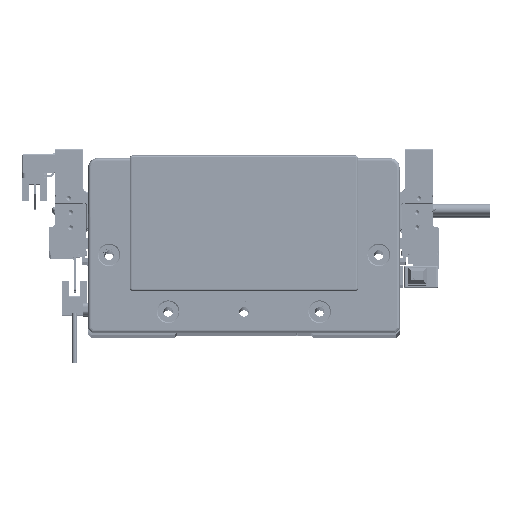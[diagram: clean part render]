
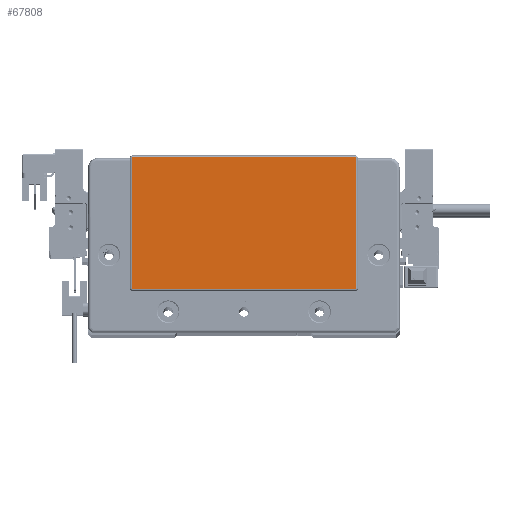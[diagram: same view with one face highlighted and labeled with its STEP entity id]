
A CAD part, top view. The second image highlights one B-rep face of the part: STEP entity #67808.
In plain terms, the highlighted planar face has unit normal (0, 0, 1) as drawn and (0, 0, -1) by its records, which use the part's own axes.
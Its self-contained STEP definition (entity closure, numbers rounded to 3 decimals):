
#1176 = EDGE_CURVE ( 'NONE', #98758, #46109, #48833, .T. ) ;
#1458 = EDGE_CURVE ( 'NONE', #38397, #8031, #82638, .T. ) ;
#5576 = LINE ( 'NONE', #40143, #28500 ) ;
#7612 = ORIENTED_EDGE ( 'NONE', *, *, #68377, .T. ) ;
#8031 = VERTEX_POINT ( 'NONE', #68889 ) ;
#8511 = DIRECTION ( 'NONE',  ( 1., 0., 0. ) ) ;
#9649 = DIRECTION ( 'NONE',  ( 0., -1., 0. ) ) ;
#11958 = VECTOR ( 'NONE', #8511, 1000. ) ;
#12671 = PLANE ( 'NONE',  #95581 ) ;
#13496 = EDGE_CURVE ( 'NONE', #8031, #98758, #62644, .T. ) ;
#14744 = DIRECTION ( 'NONE',  ( 0., 0., -1. ) ) ;
#15253 = EDGE_CURVE ( 'NONE', #46109, #92932, #5576, .T. ) ;
#15985 = VECTOR ( 'NONE', #9649, 1000. ) ;
#17512 = EDGE_CURVE ( 'NONE', #92932, #77175, #87704, .T. ) ;
#19151 = EDGE_CURVE ( 'NONE', #77175, #62313, #71152, .T. ) ;
#21098 = DIRECTION ( 'NONE',  ( 0., 0., -1. ) ) ;
#22337 = DIRECTION ( 'NONE',  ( -1., 0., 0. ) ) ;
#26860 = ORIENTED_EDGE ( 'NONE', *, *, #1176, .T. ) ;
#26902 = CARTESIAN_POINT ( 'NONE',  ( 58.75, 45.8, -2. ) ) ;
#28500 = VECTOR ( 'NONE', #89792, 1000. ) ;
#34588 = AXIS2_PLACEMENT_3D ( 'NONE', #45805, #72519, #22337 ) ;
#38334 = DIRECTION ( 'NONE',  ( 0., 0., -1. ) ) ;
#38397 = VERTEX_POINT ( 'NONE', #53584 ) ;
#39616 = AXIS2_PLACEMENT_3D ( 'NONE', #79637, #21098, #55124 ) ;
#40143 = CARTESIAN_POINT ( 'NONE',  ( -58.75, -23.8, -2. ) ) ;
#42500 = ORIENTED_EDGE ( 'NONE', *, *, #19151, .T. ) ;
#45805 = CARTESIAN_POINT ( 'NONE',  ( 58.75, 45.3, -2. ) ) ;
#46085 = CARTESIAN_POINT ( 'NONE',  ( -59.25, 45.3, -2. ) ) ;
#46109 = VERTEX_POINT ( 'NONE', #99466 ) ;
#46621 = DIRECTION ( 'NONE',  ( 0., 1., 0. ) ) ;
#48233 = CARTESIAN_POINT ( 'NONE',  ( -58.75, 45.3, -2. ) ) ;
#48302 = EDGE_CURVE ( 'NONE', #56247, #38397, #68164, .T. ) ;
#48833 = CIRCLE ( 'NONE', #79047, 0.5 ) ;
#49793 = DIRECTION ( 'NONE',  ( -1., 0., 0. ) ) ;
#53584 = CARTESIAN_POINT ( 'NONE',  ( 58.75, 45.8, -2. ) ) ;
#53595 = ORIENTED_EDGE ( 'NONE', *, *, #1458, .T. ) ;
#55124 = DIRECTION ( 'NONE',  ( -1., 0., 0. ) ) ;
#56247 = VERTEX_POINT ( 'NONE', #90685 ) ;
#57587 = DIRECTION ( 'NONE',  ( 0., 0., -1. ) ) ;
#62313 = VERTEX_POINT ( 'NONE', #95109 ) ;
#62644 = LINE ( 'NONE', #103336, #15985 ) ;
#63768 = CARTESIAN_POINT ( 'NONE',  ( -58.75, -23.8, -2. ) ) ;
#63800 = ORIENTED_EDGE ( 'NONE', *, *, #17512, .T. ) ;
#64308 = ORIENTED_EDGE ( 'NONE', *, *, #48302, .T. ) ;
#64559 = ORIENTED_EDGE ( 'NONE', *, *, #13496, .T. ) ;
#66697 = ORIENTED_EDGE ( 'NONE', *, *, #15253, .T. ) ;
#67808 = ADVANCED_FACE ( 'NONE', ( #106337 ), #12671, .T. ) ;
#68164 = LINE ( 'NONE', #26902, #11958 ) ;
#68377 = EDGE_CURVE ( 'NONE', #62313, #56247, #68905, .T. ) ;
#68889 = CARTESIAN_POINT ( 'NONE',  ( 59.25, 45.3, -2. ) ) ;
#68905 = CIRCLE ( 'NONE', #92084, 0.5 ) ;
#69198 = CARTESIAN_POINT ( 'NONE',  ( 0., 0., -2. ) ) ;
#71152 = LINE ( 'NONE', #46085, #102233 ) ;
#72323 = DIRECTION ( 'NONE',  ( -1., 0., 0. ) ) ;
#72519 = DIRECTION ( 'NONE',  ( 0., 0., -1. ) ) ;
#77175 = VERTEX_POINT ( 'NONE', #103771 ) ;
#79047 = AXIS2_PLACEMENT_3D ( 'NONE', #83771, #57587, #49793 ) ;
#79637 = CARTESIAN_POINT ( 'NONE',  ( -58.75, -23.3, -2. ) ) ;
#82638 = CIRCLE ( 'NONE', #34588, 0.5 ) ;
#83322 = DIRECTION ( 'NONE',  ( -1., 0., 0. ) ) ;
#83771 = CARTESIAN_POINT ( 'NONE',  ( 58.75, -23.3, -2. ) ) ;
#87704 = CIRCLE ( 'NONE', #39616, 0.5 ) ;
#89792 = DIRECTION ( 'NONE',  ( -1., 0., 0. ) ) ;
#90685 = CARTESIAN_POINT ( 'NONE',  ( -58.75, 45.8, -2. ) ) ;
#92084 = AXIS2_PLACEMENT_3D ( 'NONE', #48233, #14744, #83322 ) ;
#92932 = VERTEX_POINT ( 'NONE', #63768 ) ;
#95109 = CARTESIAN_POINT ( 'NONE',  ( -59.25, 45.3, -2. ) ) ;
#95581 = AXIS2_PLACEMENT_3D ( 'NONE', #69198, #38334, #72323 ) ;
#98758 = VERTEX_POINT ( 'NONE', #105124 ) ;
#99466 = CARTESIAN_POINT ( 'NONE',  ( 58.75, -23.8, -2. ) ) ;
#102233 = VECTOR ( 'NONE', #46621, 1000. ) ;
#103336 = CARTESIAN_POINT ( 'NONE',  ( 59.25, -23.3, -2. ) ) ;
#103771 = CARTESIAN_POINT ( 'NONE',  ( -59.25, -23.3, -2. ) ) ;
#105124 = CARTESIAN_POINT ( 'NONE',  ( 59.25, -23.3, -2. ) ) ;
#106337 = FACE_OUTER_BOUND ( 'NONE', #107473, .T. ) ;
#107473 = EDGE_LOOP ( 'NONE', ( #64559, #26860, #66697, #63800, #42500, #7612, #64308, #53595 ) ) ;
